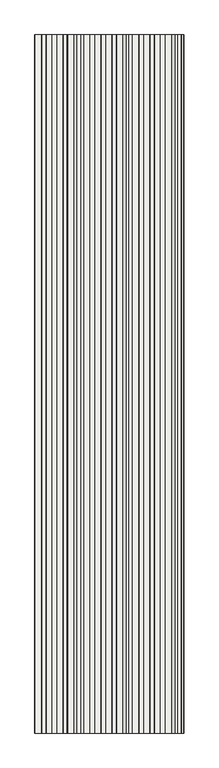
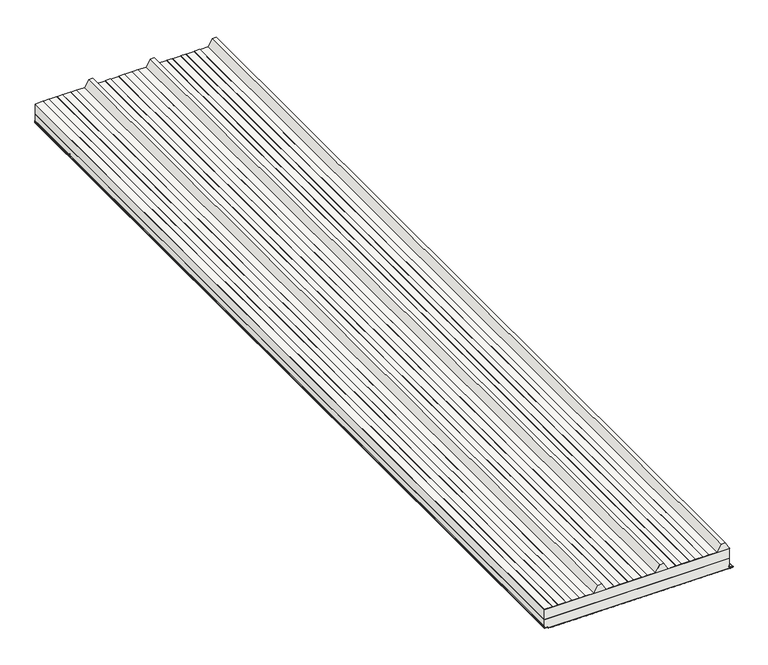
"""IFC4 building model written with IfcOpenShell, lengths in millimetres: covering geometry, Płyta warstwowa dachowa SPR CORE WOOL (pojedynczy arkusz) : -."""

from ifc_helpers import new_model, si_unit, point, frame, frame_2d, origin, place, context, project, spatial, polyline, circle_curve, trimmed, segment, composite_curve, outline, extrude, source, transform, mapped, element, save
from ifc_brep_helpers import plane_surface, cylinder_surface, revolved_surface, advanced_brep


def covering_b274b361(model_context):
    return source(origin(), model_context, "Body", "SolidModel", [
        extrude(outline(composite_curve([segment(polyline([(-114.4480338, -31.6570556), (-115.0012185, -15.8167119)]), True, "CONTINUOUS"), segment(trimmed(circle_curve(frame_2d((-117.0, -15.8865144)), 2.0), [point((-115.0012185, -15.8167119))], [point((-119.0, -15.8865144))], True, "CARTESIAN"), True, "CONTINUOUS"), segment(polyline([(-119.0, -15.8865144), (-119.0, -35.0), (-120.0, -35.0), (-120.0, -15.8865144)]), True, "CONTINUOUS"), segment(trimmed(circle_curve(frame_2d((-117.0, -15.8865144)), 3.0), [point((-120.0, -15.8865144))], [point((-114.0018277, -15.7818107))], False, "CARTESIAN"), True, "CONTINUOUS"), segment(polyline([(-114.0018277, -15.7818107), (-113.448643, -31.6221543)]), True, "CONTINUOUS"), segment(trimmed(circle_curve(frame_2d((-109.9507754, -31.5)), 3.5), [point((-113.448643, -31.6221543))], [point((-109.9507754, -35.0))], True, "CARTESIAN"), True, "CONTINUOUS"), segment(polyline([(-109.9507754, -35.0), (-99.9507754, -35.0), (-99.9507754, -36.0), (-109.9507754, -36.0)]), True, "CONTINUOUS"), segment(trimmed(circle_curve(frame_2d((-109.9507754, -31.5)), 4.5), [point((-109.9507754, -36.0))], [point((-114.4480338, -31.6570556))], False, "CARTESIAN"), True, "CONTINUOUS")], self_intersect=False)), frame((0.0, -5000.0, 0.0), z_axis=(0.0, 1.0, 0.0), x_axis=(0.0, 0.0, 1.0)), (0.0, 0.0, 1.0), 5000.0),
        extrude(outline(composite_curve([segment(polyline([(-117.0, -1061.3739939), (-114.2, -1061.3739939)]), True, "CONTINUOUS"), segment(trimmed(circle_curve(frame_2d((-114.2, -1063.3739939)), 2.0), [point((-114.2, -1061.3739939))], [point((-112.2012183, -1063.3041949))], False, "CARTESIAN"), True, "CONTINUOUS"), segment(polyline([(-112.2012183, -1063.3041949), (-111.5931411, -1080.7172487)]), True, "CONTINUOUS"), segment(trimmed(circle_curve(frame_2d((-109.094664, -1080.63)), 2.5), [point((-111.5931411, -1080.7172487))], [point((-109.094664, -1083.13))], True, "CARTESIAN"), True, "CONTINUOUS"), segment(polyline([(-109.094664, -1083.13), (-99.1749818, -1083.13), (-99.1749818, -1084.13), (-109.094664, -1084.13)]), True, "CONTINUOUS"), segment(trimmed(circle_curve(frame_2d((-109.094664, -1080.63)), 3.5), [point((-109.094664, -1084.13))], [point((-112.5925319, -1080.7521482))], False, "CARTESIAN"), True, "CONTINUOUS"), segment(polyline([(-112.5925319, -1080.7521482), (-113.2006092, -1063.3390944)]), True, "CONTINUOUS"), segment(trimmed(circle_curve(frame_2d((-114.2, -1063.3739939)), 1.0), [point((-113.2006092, -1063.3390944))], [point((-114.2, -1062.3739939))], True, "CARTESIAN"), True, "CONTINUOUS"), segment(polyline([(-114.2, -1062.3739939), (-117.0, -1062.3739939)]), True, "CONTINUOUS"), segment(trimmed(circle_curve(frame_2d((-117.0, -1059.3739939)), 3.0), [point((-117.0, -1062.3739939))], [point((-120.0, -1059.3739939))], False, "CARTESIAN"), True, "CONTINUOUS"), segment(polyline([(-120.0, -1059.3739939), (-119.0, -1059.3739939)]), True, "CONTINUOUS"), segment(trimmed(circle_curve(frame_2d((-117.0, -1059.3739939)), 2.0), [point((-119.0, -1059.3739939))], [point((-117.0, -1061.3739939))], True, "CARTESIAN"), True, "CONTINUOUS")], self_intersect=False)), frame((0.0, -5000.0, 0.0), z_axis=(0.0, 1.0, 0.0), x_axis=(0.0, 0.0, 1.0)), (0.0, 0.0, 1.0), 5000.0),
        extrude(outline(polyline([(-120.4, -548.3073277), (-119.9954731, -536.4823277), (-120.4, -524.6573277), (-119.9954731, -512.8323277), (-120.4, -501.0073277), (-119.9954731, -489.1823277), (-120.4, -477.3573277), (-119.9954731, -465.5323277), (-120.4, -453.7073277), (-119.9954731, -441.8823277), (-120.4, -430.0573277), (-119.9954731, -418.2323277), (-120.4, -406.4073277), (-119.9954731, -394.5823277), (-120.4, -382.7573277), (-119.9954731, -370.9323277), (-120.4, -359.1073277), (-119.9954731, -347.2823277), (-120.4, -335.4573277), (-119.9954731, -323.6323277), (-120.4, -311.8073277), (-119.9954731, -299.9823277), (-120.4, -288.1573277), (-119.9954731, -276.3323277), (-120.4, -264.5073277), (-119.9954731, -252.6823277), (-120.4, -240.8573277), (-119.9954731, -229.0323277), (-120.4, -217.2073277), (-119.9954731, -205.3823277), (-120.4, -193.5573277), (-119.9954731, -181.7323277), (-120.4, -169.9073277), (-119.9954731, -158.0823277), (-120.4, -146.2573277), (-119.9954731, -134.4323277), (-120.4, -122.6073277), (-119.9954731, -110.7823277), (-120.4, -98.9573277), (-119.9954731, -87.1323277), (-120.4, -75.3073277), (-119.9954731, -63.4823277), (-120.4, -51.6573277), (-119.9954731, -39.8323277), (-120.1607845, -35.0), (-119.0, -35.0), (-119.0, -1059.3769939), (-120.093289, -1059.3769939), (-119.9954731, -1056.5176723), (-120.4, -1044.6926723), (-119.9954731, -1032.8676723), (-120.4, -1021.0426723), (-119.9954731, -1009.2176723), (-120.4, -997.3926723), (-119.9954731, -985.5676723), (-120.4, -973.7426723), (-119.9954731, -961.9176723), (-120.4, -950.0926723), (-119.9954731, -938.2676723), (-120.4, -926.4426723), (-119.9954731, -914.6176723), (-120.4, -902.7926723), (-119.9954731, -890.9676723), (-120.4, -879.1426723), (-119.9954731, -867.3176723), (-120.4, -855.4926723), (-119.9954731, -843.6676723), (-120.4, -831.8426723), (-119.9954731, -820.0176723), (-120.4, -808.1926723), (-119.9954731, -796.3676723), (-120.4, -784.5426723), (-119.9954731, -772.7176723), (-120.4, -760.8926723), (-119.9954731, -749.0676723), (-120.4, -737.2426723), (-119.9954731, -725.4176723), (-120.4, -713.5926723), (-119.9954731, -701.7676723), (-120.4, -689.9426723), (-119.9954731, -678.1176723), (-120.4, -666.2926723), (-119.9954731, -654.4676723), (-120.4, -642.6426723), (-119.9954731, -630.8176723), (-120.4, -618.9926723), (-119.9954731, -607.1676723), (-120.4, -595.3426723), (-119.9954731, -583.5176723), (-120.4, -571.6926723), (-120.0, -560.0), (-120.4, -548.3073277)])), frame((0.0, -5000.0, 0.0), z_axis=(0.0, 1.0, 0.0), x_axis=(0.0, 0.0, 1.0)), (0.0, 0.0, 1.0), 5000.0),
        extrude(outline(polyline([(-1.0, -33.1332395), (0.0, -33.1332395), (0.0, -34.1332395), (40.0, -57.2443504), (40.0, -79.7110315), (0.0, -102.8221424), (0.0, -148.5756209), (1.0, -150.8678342), (1.0, -181.1627485), (0.0, -183.4549619), (0.0, -226.0380205), (1.0, -228.3302338), (1.0, -258.6251481), (0.0, -260.9173615), (0.0, -303.5004201), (1.0, -305.7926334), (1.0, -336.0875477), (0.0, -338.379761), (0.0, -384.1332395), (40.0, -407.2443504), (40.0, -429.7110315), (0.0, -452.8221424), (0.0, -498.5756209), (1.0, -500.8678342), (1.0, -531.1627485), (0.0, -533.4549619), (0.0, -576.0380205), (1.0, -578.3302338), (1.0, -608.6251481), (0.0, -610.9173615), (0.0, -653.5004201), (1.0, -655.7926334), (1.0, -686.0875477), (0.0, -688.379761), (0.0, -734.1332395), (40.0, -757.2443504), (40.0, -779.7110315), (0.0, -802.8221424), (0.0, -848.5756209), (1.0, -850.8678342), (1.0, -881.1627485), (0.0, -883.4549619), (0.0, -926.0380205), (1.0, -928.3302338), (1.0, -958.6251481), (0.0, -960.9173615), (0.0, -1003.5004201), (1.0, -1005.7926334), (1.0, -1036.0875477), (0.0, -1038.379761), (0.0, -1083.133), (-1.0, -1083.133), (-1.0, -33.1332395)])), frame((0.0, -5000.0, 0.0), z_axis=(0.0, 1.0, 0.0), x_axis=(0.0, 0.0, 1.0)), (0.0, 0.0, 1.0), 5000.0),
        advanced_brep(
        [(-35.0, -5000.0, -119.0), (-15.8865144, -5000.0, -119.0), (-15.8167119, -5000.0, -115.0012185), (-31.6570556, -5000.0, -114.4480338), (-36.0, -5000.0, -109.9507754), (-36.0, -5000.0, -60.0), (-1083.133, -5000.0, -60.0), (-1083.133, -5000.0, -109.094664), (-1080.7202487, -5000.0, -111.5931411), (-1063.3071949, -5000.0, -112.2012183), (-1061.3769939, -5000.0, -114.2), (-1061.3769939, -5000.0, -117.0), (-1059.3769939, -5000.0, -119.0), (-15.8865144, 0.0, -119.0), (-35.0, 0.0, -119.0), (-1059.3769939, 0.0, -119.0), (-1061.3769939, 0.0, -117.0), (-1061.3769939, 0.0, -114.2), (-1063.3071949, 0.0, -112.2012183), (-1080.7202487, 0.0, -111.5931411), (-1083.133, 0.0, -109.094664), (-1083.133, 0.0, -60.0), (-36.0, 0.0, -60.0), (-36.0, 0.0, -109.9507754), (-31.6570556, 0.0, -114.4480338), (-15.8167119, 0.0, -115.0012185)],
        [
            (0, 1),
            (1, 2, circle_curve(frame((-15.8865144, -5000.0, -117.0), z_axis=(0.0, -1.0, 0.0), x_axis=(-1.0, 0.0, 0.0)), 2.0)),
            (2, 3),
            (3, 4, circle_curve(frame((-31.5, -5000.0, -109.9507754), z_axis=(0.0, 1.0, 0.0), x_axis=(-1.0, 0.0, 0.0)), 4.5)),
            (4, 5),
            (5, 6),
            (6, 7),
            (7, 8, circle_curve(frame((-1080.633, -5000.0, -109.094664), z_axis=(0.0, -1.0, 0.0), x_axis=(-1.0, 0.0, 0.0)), 2.5)),
            (8, 9),
            (9, 10, circle_curve(frame((-1063.3769939, -5000.0, -114.2), z_axis=(0.0, 1.0, 0.0), x_axis=(-1.0, 0.0, 0.0)), 2.0)),
            (10, 11),
            (11, 12, circle_curve(frame((-1059.3769939, -5000.0, -117.0), z_axis=(0.0, -1.0, 0.0), x_axis=(-1.0, 0.0, 0.0)), 2.0)),
            (12, 0),
            (13, 14),
            (14, 15),
            (15, 16, circle_curve(frame((-1059.3769939, 0.0, -117.0), z_axis=(0.0, 1.0, 0.0), x_axis=(-1.0, 0.0, 0.0)), 2.0)),
            (16, 17),
            (17, 18, circle_curve(frame((-1063.3769939, 0.0, -114.2), z_axis=(0.0, -1.0, 0.0), x_axis=(-1.0, 0.0, 0.0)), 2.0)),
            (18, 19),
            (19, 20, circle_curve(frame((-1080.633, 0.0, -109.094664), z_axis=(0.0, 1.0, 0.0), x_axis=(-1.0, 0.0, 0.0)), 2.5)),
            (20, 21),
            (21, 22),
            (22, 23),
            (23, 24, circle_curve(frame((-31.5, 0.0, -109.9507754), z_axis=(0.0, -1.0, 0.0), x_axis=(-1.0, 0.0, 0.0)), 4.5)),
            (24, 25),
            (25, 13, circle_curve(frame((-15.8865144, 0.0, -117.0), z_axis=(0.0, 1.0, 0.0), x_axis=(-1.0, 0.0, 0.0)), 2.0)),
            (5, 22),
            (21, 6),
            (12, 15),
            (13, 1),
            (3, 24),
            (23, 4),
            (2, 25),
            (7, 20),
            (19, 8),
            (11, 16),
            (10, 17),
            (9, 18),
        ],
        [
            plane_surface(frame((-1085.0, -5000.0, -60.0), z_axis=(0.0, -1.0, 0.0), x_axis=(-1.0, 0.0, 0.0))),
            plane_surface(frame((-1085.0, 0.0, -60.0), z_axis=(0.0, 1.0, 0.0), x_axis=(1.0, 0.0, 0.0))),
            plane_surface(frame((5.0, -5000.0, -60.0), z_axis=(0.0, 0.0, 1.0), x_axis=(0.0, 1.0, 0.0))),
            plane_surface(frame((-1085.0, -5000.0, -119.0), z_axis=(0.0, 0.0, -1.0), x_axis=(0.0, 1.0, 0.0))),
            revolved_surface(polyline([(-36.0, -5000.0, -109.9507754), (-36.0, 0.0, -109.9507754)]), (-31.5, -5000.0, -109.9507754), (0.0, -1.0, 0.0)),
            plane_surface(frame((-31.6570556, -5000.0, -114.4480338), z_axis=(0.03490124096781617, 0.0, 0.9993907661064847), x_axis=(0.0, 1.0, 0.0))),
            cylinder_surface(frame((-15.8865144, -5000.0, -117.0), z_axis=(0.0, 1.0, 0.0), x_axis=(-1.0, 0.0, 0.0)), 2.0),
            plane_surface(frame((-36.0, -5000.0, -1.0), z_axis=(1.0, 0.0, 0.0), x_axis=(0.0, 1.0, 0.0))),
            cylinder_surface(frame((-1080.633, -5000.0, -109.094664), z_axis=(0.0, 1.0, 0.0), x_axis=(-1.0, 0.0, 0.0)), 2.5),
            plane_surface(frame((-1083.133, -5000.0, -109.094664), z_axis=(-1.0, 0.0, 0.0), x_axis=(0.0, 1.0, 0.0))),
            cylinder_surface(frame((-1059.3769939, -5000.0, -117.0), z_axis=(0.0, 1.0, 0.0), x_axis=(-1.0, 0.0, 0.0)), 2.0),
            plane_surface(frame((-1061.3769939, -5000.0, -117.0), z_axis=(-1.0, 0.0, 0.0), x_axis=(0.0, 1.0, 0.0))),
            revolved_surface(polyline([(-1065.3769939, -5000.0, -114.2), (-1065.3769939, 0.0, -114.2)]), (-1063.3769939, -5000.0, -114.2), (0.0, -1.0, 0.0)),
            plane_surface(frame((-1063.3071949, -5000.0, -112.2012183), z_axis=(-0.03489949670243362, 0.0, -0.9993908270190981), x_axis=(0.0, 1.0, 0.0))),
        ],
        [
            (0, [[1, 2, 3, 4, 5, 6, 7, 8, 9, 10, 11, 12, 13]]),
            (1, [[14, 15, 16, 17, 18, 19, 20, 21, 22, 23, 24, 25, 26]]),
            (2, [[27, -22, 28, -6]]),
            (3, [[-1, -13, 29, -15, -14, 30]]),
            (4, [[31, -24, 32, -4]]),
            (5, [[-31, -3, 33, -25]]),
            (6, [[-33, -2, -30, -26]]),
            (7, [[-32, -23, -27, -5]]),
            (8, [[34, -20, 35, -8]]),
            (9, [[-34, -7, -28, -21]]),
            (10, [[36, -16, -29, -12]]),
            (11, [[-36, -11, 37, -17]]),
            (12, [[-37, -10, 38, -18]]),
            (13, [[-35, -19, -38, -9]]),
        ],
    ),
        extrude(outline(polyline([(-36.0, 0.0), (-36.0, -5000.0), (-1083.133, -5000.0), (-1083.133, 0.0), (-36.0, 0.0)])), frame((0.0, 0.0, -60.0), z_axis=(0.0, 0.0, 1.0), x_axis=(1.0, 0.0, 0.0)), (0.0, 0.0, 1.0), 59.0),
    ])


if __name__ == "__main__":
    model = new_model("IFC4")
    model_context = context("Model", 3, world=origin())
    ifc_project = project(units=[si_unit("LENGTHUNIT", "METRE", prefix="MILLI")], contexts=[model_context])
    site = spatial("IfcSite", under=ifc_project)
    building = spatial("IfcBuilding", under=site)
    placement = place(None, origin())
    covering_shape = covering_b274b361(model_context)
    element("IfcCovering", 1, ObjectType="Płyta warstwowa dachowa SPR CORE WOOL (pojedynczy arkusz) : -", at=placement, inside=building, context=model_context, shape_type="MappedRepresentation", body=[
        mapped(covering_shape, transform((0.0, 0.0, 0.0), x_axis=(1.0, 0.0, 0.0), y_axis=(0.0, 1.0, 0.0), z_axis=(0.0, 0.0, 1.0))),
    ])
    save(model, "model.ifc")
